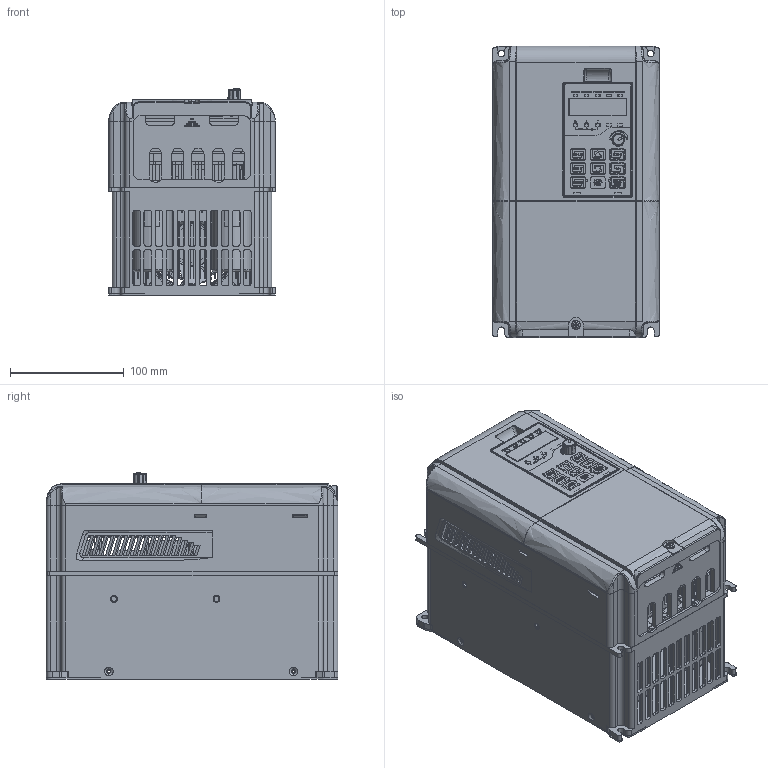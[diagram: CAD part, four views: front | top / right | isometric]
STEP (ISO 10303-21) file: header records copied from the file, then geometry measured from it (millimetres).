
FILE_DESCRIPTION (( 'STEP AP214' ), '1' );
FILE_NAME ('00-KC200-7.5KW-ÍâÐÎ³ß´çÍ¼.STEP', '2024-05-28T09:21:14', ( '' ), ( '' ), 'SwSTEP 2.0', 'SolidWorks 2020', '' );
FILE_SCHEMA (( 'AUTOMOTIVE_DESIGN' ));
Length unit declared in the file: millimetre
Products named in the file (1): 00-KC200-7.5KW-俋倛喜渡芞
Bounding box: 146 x 256 x 181.4 mm (x, y, z)
Surface area: 512086.7 mm2 (no closed solid volume)
Topology: 0 solids, 145 shells, 1891 faces, 10682 edges, 8688 vertices
Faces by surface type: plane 1020, cylinder 571, bspline 266, cone 34
Entity records: 148992 total; most frequent: CARTESIAN_POINT 51674, ORIENTED_EDGE 14552, DIRECTION 13358, EDGE_CURVE 10676, VERTEX_POINT 8688, VECTOR 7174, LINE 7174, AXIS2_PLACEMENT_3D 3092
